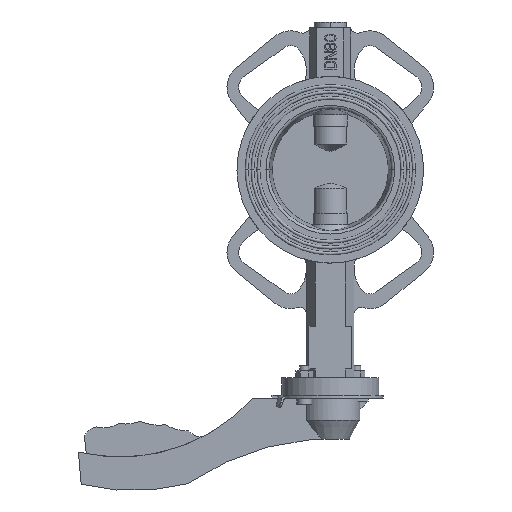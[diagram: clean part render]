
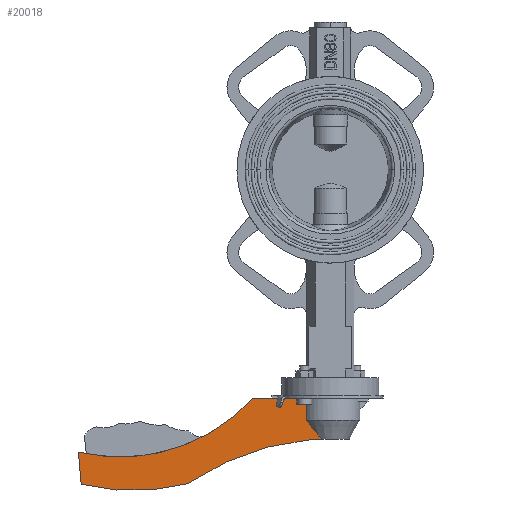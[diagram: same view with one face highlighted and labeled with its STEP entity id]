
A CAD part, front view. The second image highlights one B-rep face of the part: STEP entity #20018.
In plain terms, the highlighted planar face has unit normal (0, -1, 0) as drawn and (0, 0, 1) by its records, which use the part's own axes.
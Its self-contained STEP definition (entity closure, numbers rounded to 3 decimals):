
#19178=DIRECTION('',(1.,0.,0.));
#19179=VECTOR('',#19178,37.);
#19180=CARTESIAN_POINT('',(16.,0.,12.));
#19181=LINE('',#19180,#19179);
#19246=DIRECTION('',(0.,1.,0.));
#19247=VECTOR('',#19246,15.);
#19248=CARTESIAN_POINT('',(16.,0.,12.));
#19249=LINE('',#19248,#19247);
#19401=DIRECTION('',(-1.,0.,0.));
#19402=VECTOR('',#19401,8.);
#19403=CARTESIAN_POINT('',(13.,28.,12.));
#19404=LINE('',#19403,#19402);
#19405=CARTESIAN_POINT('',(-2.144,202.343,12.));
#19406=DIRECTION('',(0.,0.,-1.));
#19407=DIRECTION('',(0.567,-0.824,0.));
#19408=AXIS2_PLACEMENT_3D('',#19405,#19406,#19407);
#19410=CARTESIAN_POINT('',(133.983,-86.2,12.));
#19411=DIRECTION('',(0.,0.,1.));
#19412=DIRECTION('',(0.238,0.971,0.));
#19413=AXIS2_PLACEMENT_3D('',#19410,#19411,#19412);
#19415=DIRECTION('',(-0.087,0.996,0.));
#19416=VECTOR('',#19415,22.);
#19417=CARTESIAN_POINT('',(171.371,36.6,12.));
#19418=LINE('',#19417,#19416);
#19419=CARTESIAN_POINT('',(142.889,-81.,12.));
#19420=DIRECTION('',(0.,0.,-1.));
#19421=DIRECTION('',(-0.743,0.669,0.));
#19422=AXIS2_PLACEMENT_3D('',#19419,#19420,#19421);
#19444=CARTESIAN_POINT('',(5.,28.,12.));
#19445=CARTESIAN_POINT('',(5.552,27.605,12.));
#19446=CARTESIAN_POINT('',(6.667,26.698,12.));
#19447=CARTESIAN_POINT('',(8.382,25.002,12.));
#19448=CARTESIAN_POINT('',(10.153,22.988,12.));
#19449=CARTESIAN_POINT('',(12.,20.659,12.));
#19450=CARTESIAN_POINT('',(13.936,18.017,12.));
#19451=CARTESIAN_POINT('',(15.3,16.04,12.));
#19452=CARTESIAN_POINT('',(16.,15.,12.));
#19580=CARTESIAN_POINT('',(53.,0.,12.));
#19581=CARTESIAN_POINT('',(171.371,36.6,12.));
#19582=VERTEX_POINT('',#19580);
#19583=VERTEX_POINT('',#19581);
#19584=CARTESIAN_POINT('',(169.454,58.516,12.));
#19585=VERTEX_POINT('',#19584);
#19586=CARTESIAN_POINT('',(97.,58.137,12.));
#19587=VERTEX_POINT('',#19586);
#19588=CARTESIAN_POINT('',(13.,28.,12.));
#19589=VERTEX_POINT('',#19588);
#19594=CARTESIAN_POINT('',(16.,0.,12.));
#19595=CARTESIAN_POINT('',(16.,15.,12.));
#19596=VERTEX_POINT('',#19594);
#19597=VERTEX_POINT('',#19595);
#19598=VERTEX_POINT('',#19444);
#19998=CARTESIAN_POINT('',(0.,0.,12.));
#19999=DIRECTION('',(0.,0.,1.));
#20000=DIRECTION('',(1.,0.,0.));
#20001=AXIS2_PLACEMENT_3D('',#19998,#19999,#20000);
#20002=PLANE('',#20001);
#20003=ORIENTED_EDGE('',*,*,#19819,.T.);
#20005=ORIENTED_EDGE('',*,*,#20004,.F.);
#20007=ORIENTED_EDGE('',*,*,#20006,.F.);
#20009=ORIENTED_EDGE('',*,*,#20008,.F.);
#20011=ORIENTED_EDGE('',*,*,#20010,.F.);
#20013=ORIENTED_EDGE('',*,*,#20012,.F.);
#20014=ORIENTED_EDGE('',*,*,#19981,.F.);
#20015=ORIENTED_EDGE('',*,*,#19697,.F.);
#20016=EDGE_LOOP('',(#20003,#20005,#20007,#20009,#20011,#20013,#20014,#20015));
#20017=FACE_OUTER_BOUND('',#20016,.F.);
#20018=ADVANCED_FACE('',(#20017),#20002,.T.);
#19409=CIRCLE('',#19408,175.);
#19414=CIRCLE('',#19413,149.);
#19423=CIRCLE('',#19422,121.);
#19453=B_SPLINE_CURVE_WITH_KNOTS('',3,(#19444,#19445,#19446,#19447,#19448,
#19449,#19450,#19451,#19452),.UNSPECIFIED.,.F.,.F.,(4,1,1,1,1,1,4),(0.,
0.167,0.333,0.5,0.667,0.833,
1.),.UNSPECIFIED.);
#19697=EDGE_CURVE('',#19596,#19582,#19181,.T.);
#19819=EDGE_CURVE('',#19596,#19597,#19249,.T.);
#19981=EDGE_CURVE('',#19582,#19583,#19423,.T.);
#20004=EDGE_CURVE('',#19598,#19597,#19453,.T.);
#20006=EDGE_CURVE('',#19589,#19598,#19404,.T.);
#20008=EDGE_CURVE('',#19587,#19589,#19409,.T.);
#20010=EDGE_CURVE('',#19585,#19587,#19414,.T.);
#20012=EDGE_CURVE('',#19583,#19585,#19418,.T.);
